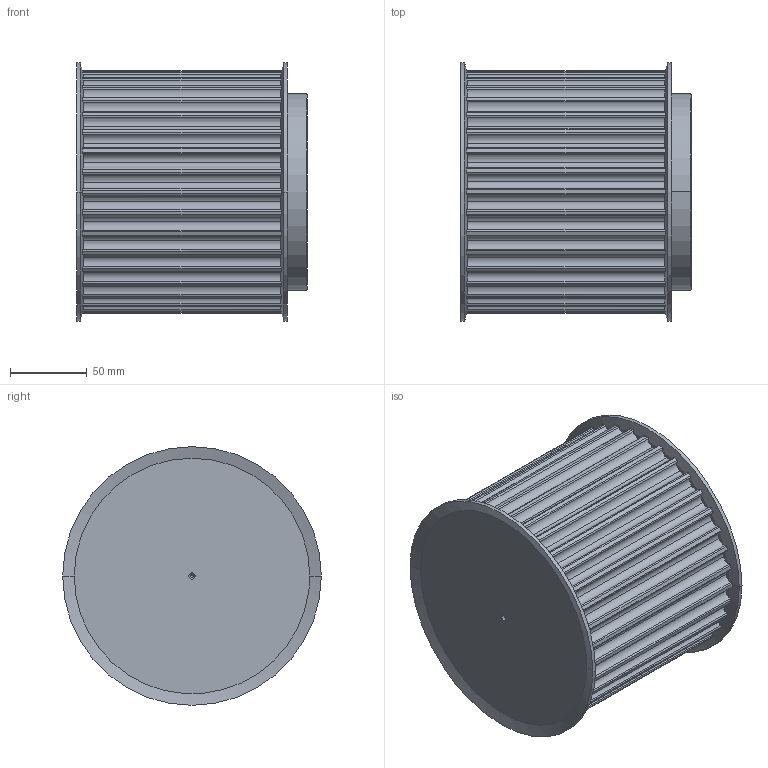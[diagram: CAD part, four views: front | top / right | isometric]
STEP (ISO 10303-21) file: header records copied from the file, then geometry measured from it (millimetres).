
FILE_DESCRIPTION(('STEP AP203'),'1');
FILE_NAME('36_-_14_m_115.stp','2019-12-02T09:22:13',('TraceParts'),('TraceParts S.A.'),'Spatial InterOp 3D',' ',' ');
FILE_SCHEMA(('CONFIG_CONTROL_DESIGN'));
Length unit declared in the file: millimetre
Products named in the file (1): 1
Bounding box: 150.01 x 168 x 168 mm (x, y, z)
Volume: 2642097.9 mm3; surface area: 144121.6 mm2
Topology: 1 solids, 1 shells, 283 faces, 826 edges, 544 vertices
Faces by surface type: cylinder 190, plane 75, cone 18
Entity records: 10930 total; most frequent: CARTESIAN_POINT 3666, ORIENTED_EDGE 1644, DIRECTION 1428, EDGE_CURVE 822, AXIS2_PLACEMENT_3D 610, VERTEX_POINT 544, CIRCLE 326, B_SPLINE_CURVE_WITH_KNOTS 288
